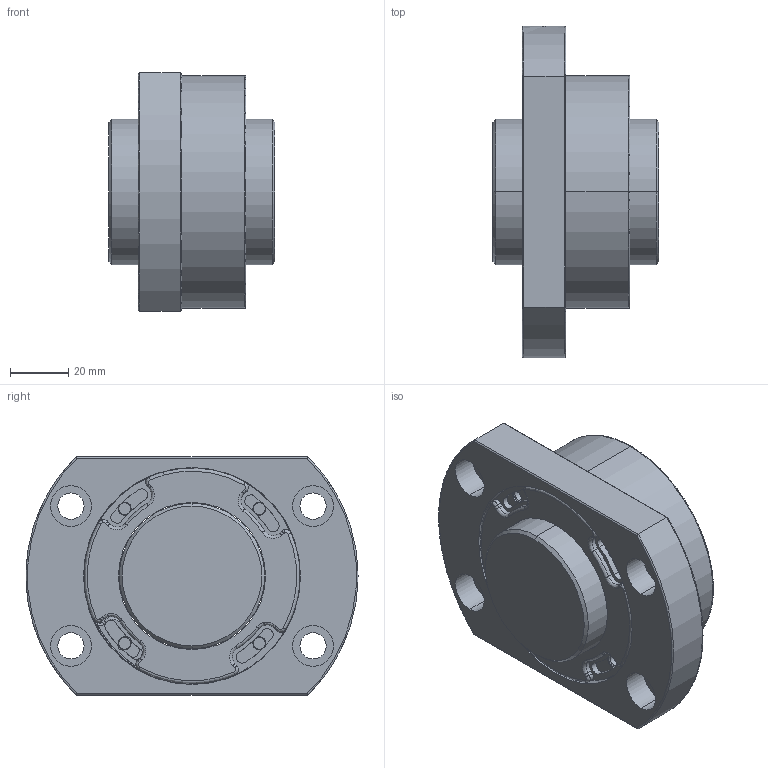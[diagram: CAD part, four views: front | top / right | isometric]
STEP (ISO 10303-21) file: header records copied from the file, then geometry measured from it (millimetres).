
FILE_DESCRIPTION (( 'STEP AP203' ), '1' );
FILE_NAME ('SFVSR05005C1D-C.STEP', '2020-06-17T05:35:01', ( '' ), ( '' ), 'SwSTEP 2.0', 'SolidWorks 2013', '' );
FILE_SCHEMA (( 'CONFIG_CONTROL_DESIGN' ));
Length unit declared in the file: millimetre
Products named in the file (1): SFVSR05005C1D-C
Bounding box: 57 x 114 x 82 mm (x, y, z)
Volume: 259191.6 mm3; surface area: 50792.7 mm2
Topology: 2 solids, 2 shells, 371 faces, 884 edges, 544 vertices
Faces by surface type: cylinder 184, plane 99, bspline 68, cone 20
Entity records: 12583 total; most frequent: CARTESIAN_POINT 3916, DIRECTION 1928, ORIENTED_EDGE 1768, EDGE_CURVE 884, AXIS2_PLACEMENT_3D 826, VERTEX_POINT 544, CIRCLE 522, EDGE_LOOP 412
